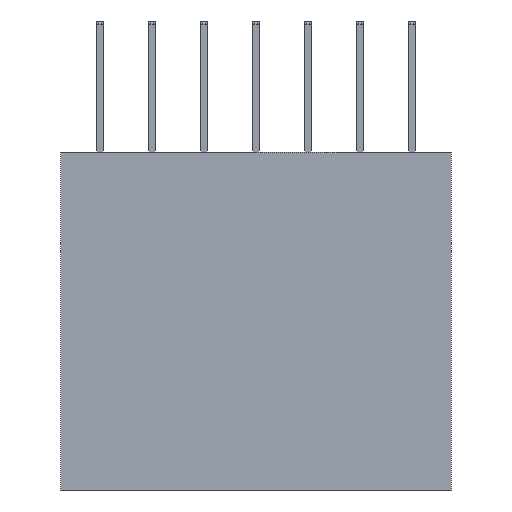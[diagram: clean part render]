
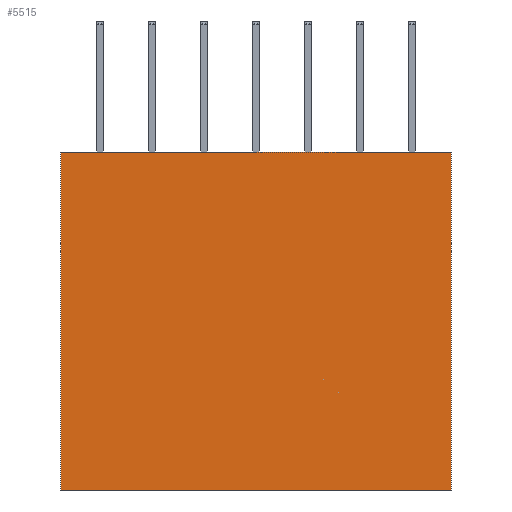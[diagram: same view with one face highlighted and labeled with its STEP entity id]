
A CAD part, left-side view. The second image highlights one B-rep face of the part: STEP entity #5515.
In plain terms, the highlighted planar face has unit normal (-1, 0, 0) as drawn and (1, 0, 0) by its records, which use the part's own axes.
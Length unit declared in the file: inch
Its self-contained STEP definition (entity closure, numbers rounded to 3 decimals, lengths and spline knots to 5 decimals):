
#5452=CARTESIAN_POINT('',(4.215,0.75,0.925));
#5453=VERTEX_POINT('',#5452);
#5460=CARTESIAN_POINT('',(4.215,0.75,-0.375));
#5461=VERTEX_POINT('',#5460);
#5462=CARTESIAN_POINT('',(4.215,0.75,-0.375));
#5463=DIRECTION('',(0.0,0.0,1.0));
#5464=VECTOR('',#5463,1.3);
#5465=LINE('',#5462,#5464);
#5466=EDGE_CURVE('',#5461,#5453,#5465,.T.);
#5485=CARTESIAN_POINT('',(4.215,0.75,-0.375));
#5486=DIRECTION('',(1.0,0.0,0.0));
#5487=DIRECTION('',(0.0,0.0,-1.0));
#5488=AXIS2_PLACEMENT_3D('',#5485,#5486,#5487);
#5489=PLANE('',#5488);
#5490=CARTESIAN_POINT('',(4.215,-0.75,0.925));
#5491=VERTEX_POINT('',#5490);
#5492=CARTESIAN_POINT('',(4.215,0.75,0.925));
#5493=DIRECTION('',(0.0,-1.0,0.0));
#5494=VECTOR('',#5493,1.5);
#5495=LINE('',#5492,#5494);
#5496=EDGE_CURVE('',#5453,#5491,#5495,.T.);
#5497=ORIENTED_EDGE('',*,*,#5496,.T.);
#5498=CARTESIAN_POINT('',(4.215,-0.75,-0.375));
#5499=VERTEX_POINT('',#5498);
#5500=CARTESIAN_POINT('',(4.215,-0.75,-0.375));
#5501=DIRECTION('',(0.0,0.0,1.0));
#5502=VECTOR('',#5501,1.3);
#5503=LINE('',#5500,#5502);
#5504=EDGE_CURVE('',#5499,#5491,#5503,.T.);
#5505=ORIENTED_EDGE('',*,*,#5504,.F.);
#5506=CARTESIAN_POINT('',(4.215,0.75,-0.375));
#5507=DIRECTION('',(0.0,-1.0,0.0));
#5508=VECTOR('',#5507,1.5);
#5509=LINE('',#5506,#5508);
#5510=EDGE_CURVE('',#5461,#5499,#5509,.T.);
#5511=ORIENTED_EDGE('',*,*,#5510,.F.);
#5512=ORIENTED_EDGE('',*,*,#5466,.T.);
#5513=EDGE_LOOP('',(#5497,#5505,#5511,#5512));
#5514=FACE_OUTER_BOUND('',#5513,.T.);
#5515=ADVANCED_FACE('',(#5514),#5489,.T.);
